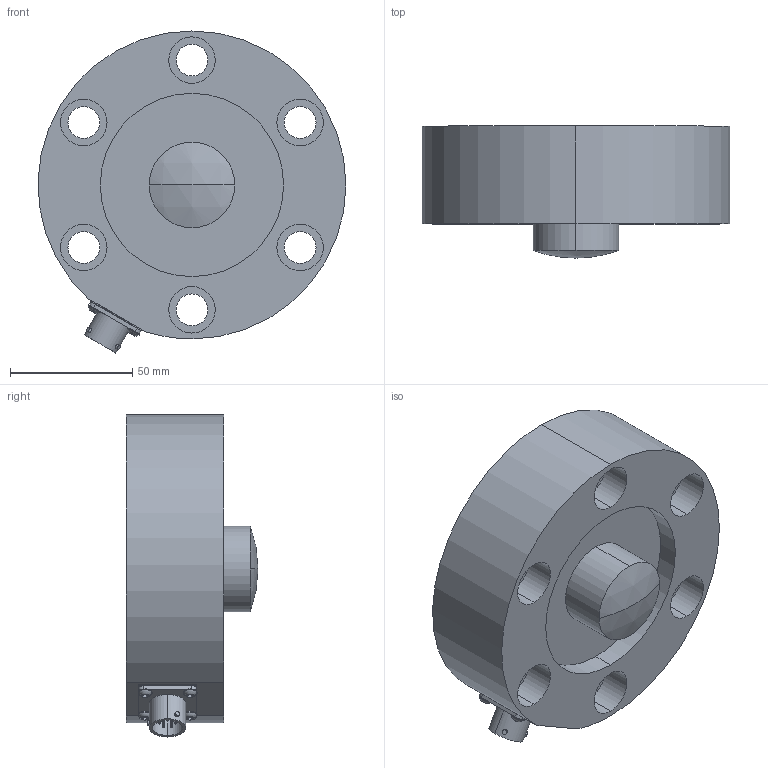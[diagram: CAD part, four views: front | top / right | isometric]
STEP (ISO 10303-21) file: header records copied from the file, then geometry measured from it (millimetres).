
FILE_DESCRIPTION (( 'STEP AP203' ), '1' );
FILE_NAME ('CM-K20M-C-S.STEP', '2013-06-24T09:14:42', ( 'User' ), ( '' ), 'SwSTEP 2.0', 'SolidWorks 2013', '' );
FILE_SCHEMA (( 'CONFIG_CONTROL_DESIGN' ));
Length unit declared in the file: millimetre
Products named in the file (6): GUA030X; CM-K20M-C-S; SOS831Hx; DIS003x; CON302X; MIM837X
Assembly tree (8 placements, depth 2):
  CM-K20M-C-S
    SOS831Hx
    DIS003x
    CON302X
    MIM837X  x4
    GUA030X
Bounding box: 125.97 x 54 x 131.76 mm (x, y, z)
Volume: 432632.4 mm3; surface area: 72495.9 mm2
Topology: 8 solids, 8 shells, 711 faces, 1782 edges, 1125 vertices
Faces by surface type: plane 228, cylinder 209, cone 186, bspline 56, torus 22, sphere 10
Entity records: 17278 total; most frequent: CARTESIAN_POINT 5861, ORIENTED_EDGE 2224, DIRECTION 2184, EDGE_CURVE 1112, AXIS2_PLACEMENT_3D 791, VERTEX_POINT 720, VECTOR 602, LINE 602
